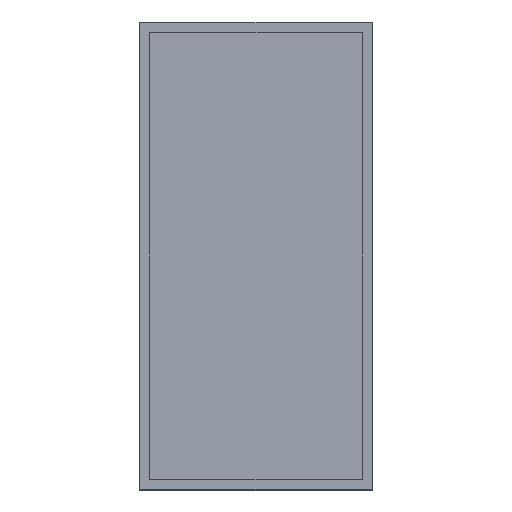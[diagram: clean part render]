
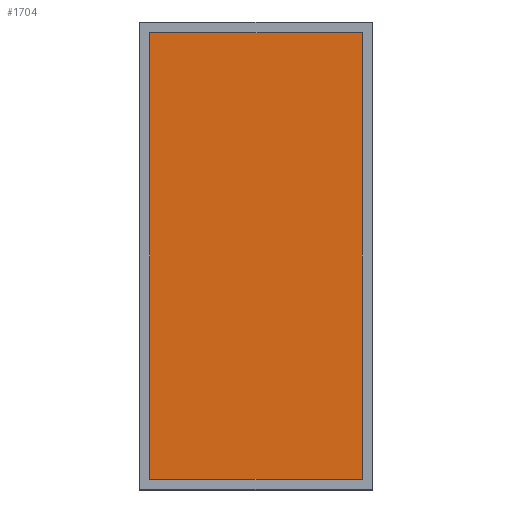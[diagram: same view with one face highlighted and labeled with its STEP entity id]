
A CAD part, front view. The second image highlights one B-rep face of the part: STEP entity #1704.
In plain terms, the highlighted planar face has unit normal (0, -1, 0).
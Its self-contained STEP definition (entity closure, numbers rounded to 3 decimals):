
#1704=ADVANCED_FACE('',(#7265),#7267,.F.);
#7265=FACE_BOUND('',#7266,.T.);
#7266=EDGE_LOOP('',(#9588,#9589,#9590,#9591));
#7267=PLANE('',#7268);
#7268=AXIS2_PLACEMENT_3D('',#7269,#7270,#7271);
#7269=CARTESIAN_POINT('',(0.,0.,0.));
#7270=DIRECTION('',(-0.,1.,0.));
#7271=DIRECTION('',(1.,0.,0.));
#9588=ORIENTED_EDGE('',*,*,#10750,.F.);
#9589=ORIENTED_EDGE('',*,*,#10747,.F.);
#9590=ORIENTED_EDGE('',*,*,#10744,.F.);
#9591=ORIENTED_EDGE('',*,*,#10740,.F.);
#10740=EDGE_CURVE('',#12664,#12665,#12666,.T.);
#10744=EDGE_CURVE('',#12665,#12672,#12673,.T.);
#10747=EDGE_CURVE('',#12672,#12677,#12678,.T.);
#10750=EDGE_CURVE('',#12677,#12664,#12682,.T.);
#12664=VERTEX_POINT('',#17540);
#12665=VERTEX_POINT('',#17541);
#12666=LINE('',#17542,#17543);
#12672=VERTEX_POINT('',#17556);
#12673=LINE('',#17557,#17558);
#12677=VERTEX_POINT('',#17567);
#12678=LINE('',#17568,#17569);
#12682=LINE('',#17578,#17579);
#17540=CARTESIAN_POINT('',(-584.,0.,283.));
#17541=CARTESIAN_POINT('',(584.,0.,283.));
#17542=CARTESIAN_POINT('',(-584.,0.,283.));
#17543=VECTOR('',#17544,1.);
#17544=DIRECTION('',(1.,0.,0.));
#17556=CARTESIAN_POINT('',(584.,0.,-283.));
#17557=CARTESIAN_POINT('',(584.,0.,283.));
#17558=VECTOR('',#17559,1.);
#17559=DIRECTION('',(0.,0.,-1.));
#17567=CARTESIAN_POINT('',(-584.,0.,-283.));
#17568=CARTESIAN_POINT('',(584.,0.,-283.));
#17569=VECTOR('',#17570,1.);
#17570=DIRECTION('',(-1.,0.,0.));
#17578=CARTESIAN_POINT('',(-584.,0.,-283.));
#17579=VECTOR('',#17580,1.);
#17580=DIRECTION('',(0.,0.,1.));
